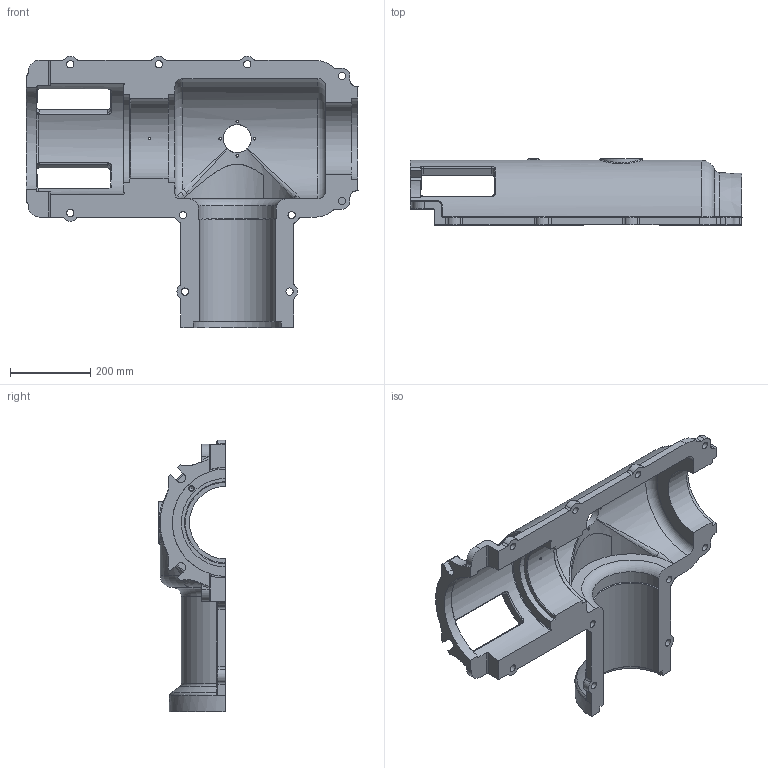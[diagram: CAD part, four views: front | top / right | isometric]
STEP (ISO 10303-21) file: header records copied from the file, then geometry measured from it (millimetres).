
FILE_DESCRIPTION(('STEP AP203'), '1');
FILE_NAME('Êðûøêà ðåäóêòîðà óãëîâîãî ïðàâàÿ _ 2.02422.02.00.02', '', ('UNSPECIFIED'), ('UNSPECIFIED'), 'C3D Converter', 'C3D Toolkit', '');
FILE_SCHEMA(('CONFIG_CONTROL_DESIGN'));
Length unit declared in the file: millimetre
Products named in the file (1): 2.02422.02.00.02-01
Bounding box: 825 x 165 x 675 mm (x, y, z)
Volume: 11769295 mm3; surface area: 1206881.9 mm2
Topology: 1 solids, 1 shells, 317 faces, 839 edges, 512 vertices
Faces by surface type: cylinder 122, plane 77, bspline 63, torus 34, cone 21
Full cylindrical faces by diameter (mm): 6 x1, 6.647 x4, 8.376 x1, 10.106 x3, 15.294 x2, 18 x10, 25 x1, 70 x1, 105 x1
Entity records: 24648 total; most frequent: CARTESIAN_POINT 14853, ORIENTED_EDGE 1546, DIRECTION 1374, EDGE_CURVE 773, AXIS2_PLACEMENT_3D 559, VERTEX_POINT 504, EDGE_LOOP 399, COLOUR_RGB 318
